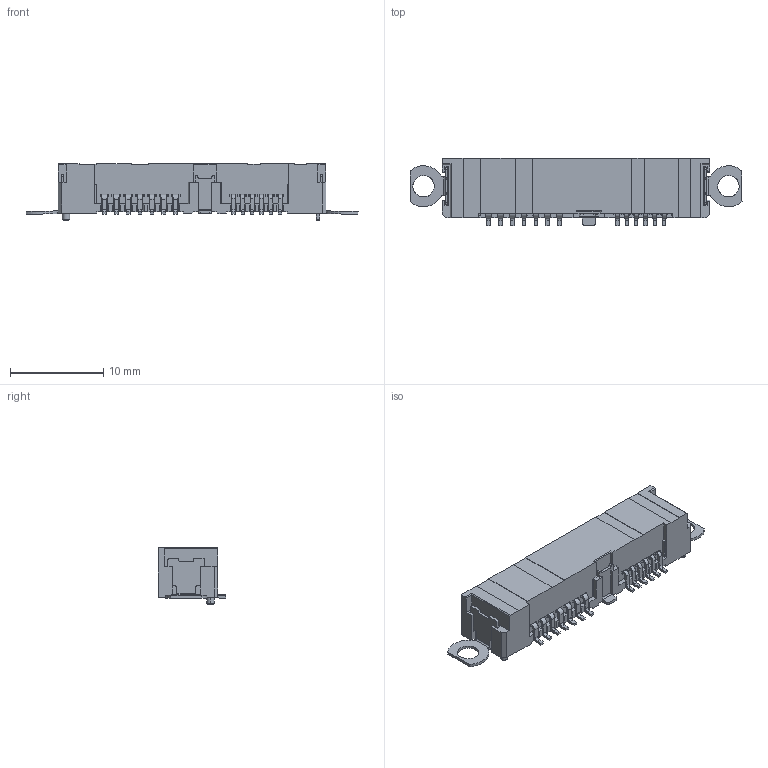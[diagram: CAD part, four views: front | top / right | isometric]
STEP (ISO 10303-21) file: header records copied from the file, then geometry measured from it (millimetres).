
FILE_DESCRIPTION (( 'STEP AP214' ), '1' );
FILE_NAME ('105650013002.STEP', '2015-10-22T01:27:29', ( '' ), ( '' ), 'SwSTEP 2.0', 'SolidWorks 2014', '' );
FILE_SCHEMA (( 'AUTOMOTIVE_DESIGN' ));
Length unit declared in the file: millimetre
Products named in the file (1): 105650013002
Bounding box: 35.61 x 7.24 x 6.05 mm (x, y, z)
Volume: 466.2 mm3; surface area: 1203.3 mm2
Topology: 16 solids, 16 shells, 740 faces, 2046 edges, 1342 vertices
Faces by surface type: plane 587, cylinder 145, cone 8
Entity records: 24037 total; most frequent: CARTESIAN_POINT 4975, ORIENTED_EDGE 4092, DIRECTION 3700, EDGE_CURVE 2046, VECTOR 1646, LINE 1646, VERTEX_POINT 1342, AXIS2_PLACEMENT_3D 1027
